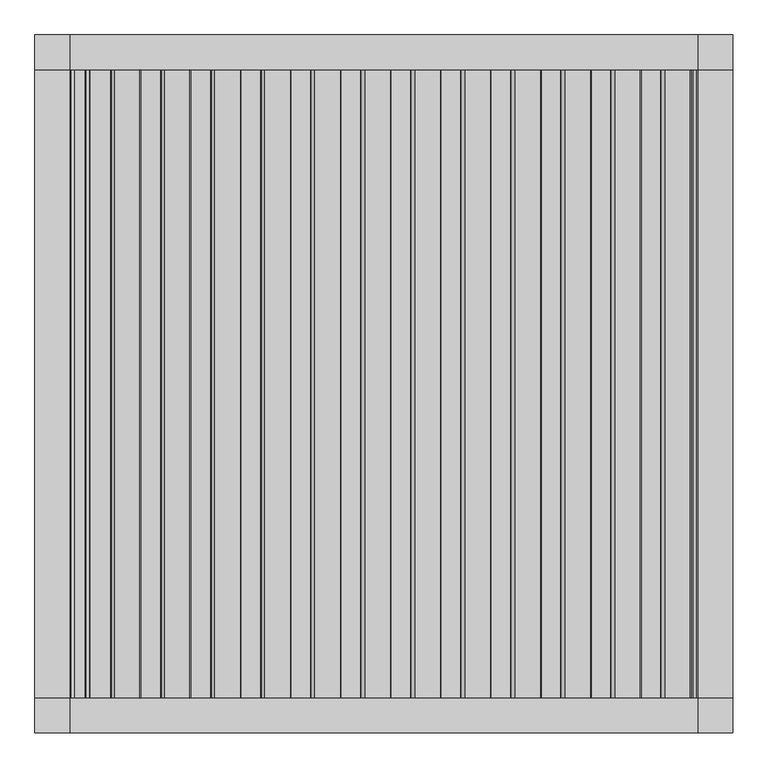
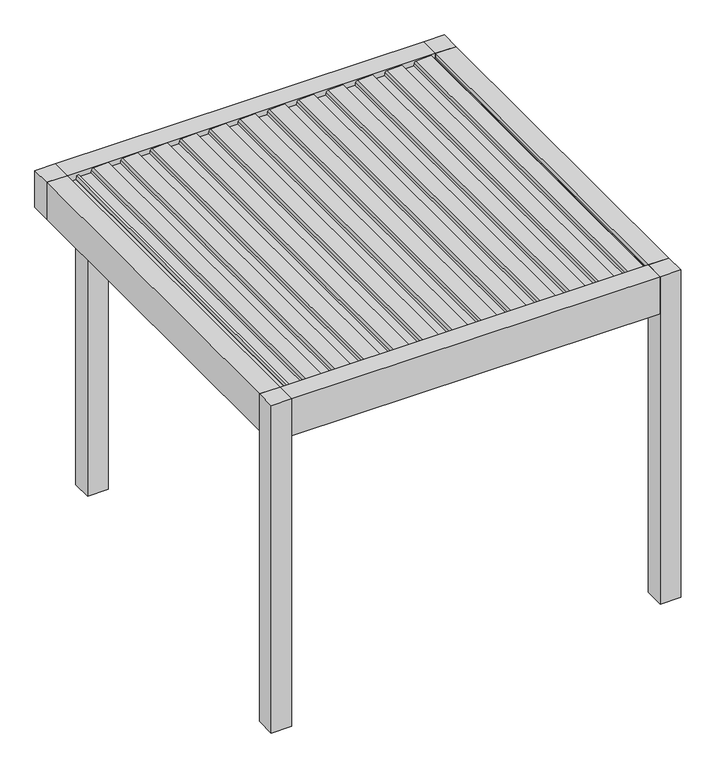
"""IFC4 building model written with IfcOpenShell, lengths in millimetres: proxy geometry, Renson_Amani_Patio_Cover : Renson_Amani_Patio_Cover."""

from ifc_helpers import new_model, si_unit, point, frame, frame_2d, origin, origin_with_axes, place, context, project, spatial, polyline, circle_curve, trimmed, segment, composite_curve, outline, extrude, source, transform, mapped, element, save


def generic_models_81e04796(model_context):
    return source(origin(), model_context, "Body", "SweptSolid", [
        extrude(outline(composite_curve([segment(polyline([(2483.35, 1073.7289238), (2511.01198, 1076.1490335), (2512.3970364, 1104.984284), (2531.8911096, 1101.5469529), (2526.6075693, 991.549838)]), True, "CONTINUOUS"), segment(trimmed(circle_curve(frame_2d((2511.6248435, 992.26951)), 15.0), [point((2526.6075693, 991.549838))], [point((2514.2295662, 977.4973937))], False, "CARTESIAN"), True, "CONTINUOUS"), segment(polyline([(2514.2295662, 977.4973937), (2495.0, 974.1067023), (2495.0, 886.3709263), (2512.0788237, 883.3594689), (2511.3450182, 868.0824984), (2483.35, 865.6332517), (2483.35, 1073.7289238)]), True, "CONTINUOUS")], self_intersect=False)), frame((0.0, -1350.0, 0.0), z_axis=(0.0, 1.0, 0.0), x_axis=(0.0, 0.0, 1.0)), (0.0, 0.0, 1.0), 2700.0),
        extrude(outline(composite_curve([segment(polyline([(2483.35, 858.7132078), (2511.01198, 861.1333174), (2512.3970364, 889.9685679), (2531.8911096, 886.5312368), (2526.6075693, 776.534122)]), True, "CONTINUOUS"), segment(trimmed(circle_curve(frame_2d((2511.6248435, 777.2537939)), 15.0), [point((2526.6075693, 776.534122))], [point((2514.2295662, 762.4816776))], False, "CARTESIAN"), True, "CONTINUOUS"), segment(polyline([(2514.2295662, 762.4816776), (2495.0, 759.0909863), (2495.0, 671.3552102), (2512.0788237, 668.3437528), (2511.3450182, 653.0667824), (2483.35, 650.6175356), (2483.35, 858.7132078)]), True, "CONTINUOUS")], self_intersect=False)), frame((0.0, -1350.0, 0.0), z_axis=(0.0, 1.0, 0.0), x_axis=(0.0, 0.0, 1.0)), (0.0, 0.0, 1.0), 2700.0),
        extrude(outline(composite_curve([segment(polyline([(2483.35, 643.6974917), (2511.01198, 646.1176014), (2512.3970364, 674.9528519), (2531.8911096, 671.5155208), (2526.6075693, 561.5184059)]), True, "CONTINUOUS"), segment(trimmed(circle_curve(frame_2d((2511.6248435, 562.2380779)), 15.0), [point((2526.6075693, 561.5184059))], [point((2514.2295662, 547.4659616))], False, "CARTESIAN"), True, "CONTINUOUS"), segment(polyline([(2514.2295662, 547.4659616), (2495.0, 544.0752702), (2495.0, 456.3394942), (2512.0788237, 453.3280368), (2511.3450182, 438.0510663), (2483.35, 435.6018196), (2483.35, 643.6974917)]), True, "CONTINUOUS")], self_intersect=False)), frame((0.0, -1350.0, 0.0), z_axis=(0.0, 1.0, 0.0), x_axis=(0.0, 0.0, 1.0)), (0.0, 0.0, 1.0), 2700.0),
        extrude(outline(composite_curve([segment(polyline([(2483.35, 428.6817757), (2511.01198, 431.1018854), (2512.3970364, 459.9371358), (2531.8911096, 456.4998047), (2526.6075693, 346.5026899)]), True, "CONTINUOUS"), segment(trimmed(circle_curve(frame_2d((2511.6248435, 347.2223618)), 15.0), [point((2526.6075693, 346.5026899))], [point((2514.2295662, 332.4502455))], False, "CARTESIAN"), True, "CONTINUOUS"), segment(polyline([(2514.2295662, 332.4502455), (2495.0, 329.0595542), (2495.0, 241.3237782), (2512.0788237, 238.3123207), (2511.3450182, 223.0353503), (2483.35, 220.5861035), (2483.35, 428.6817757)]), True, "CONTINUOUS")], self_intersect=False)), frame((0.0, -1350.0, 0.0), z_axis=(0.0, 1.0, 0.0), x_axis=(0.0, 0.0, 1.0)), (0.0, 0.0, 1.0), 2700.0),
        extrude(outline(composite_curve([segment(polyline([(2483.35, 213.6660597), (2511.01198, 216.0861693), (2512.3970364, 244.9214198), (2531.8911096, 241.4840887), (2526.6075693, 131.4869738)]), True, "CONTINUOUS"), segment(trimmed(circle_curve(frame_2d((2511.6248435, 132.2066458)), 15.0), [point((2526.6075693, 131.4869738))], [point((2514.2295662, 117.4345295))], False, "CARTESIAN"), True, "CONTINUOUS"), segment(polyline([(2514.2295662, 117.4345295), (2495.0, 114.0438381), (2495.0, 26.3080621), (2512.0788237, 23.2966047), (2511.3450182, 8.0196342), (2483.35, 5.5703875), (2483.35, 213.6660597)]), True, "CONTINUOUS")], self_intersect=False)), frame((0.0, -1350.0, 0.0), z_axis=(0.0, 1.0, 0.0), x_axis=(0.0, 0.0, 1.0)), (0.0, 0.0, 1.0), 2700.0),
        extrude(outline(composite_curve([segment(polyline([(2483.35, -1.3496564), (2511.01198, 1.0704533), (2512.3970364, 29.9057037), (2531.8911096, 26.4683726), (2526.6075693, -83.5287422)]), True, "CONTINUOUS"), segment(trimmed(circle_curve(frame_2d((2511.6248435, -82.8090703)), 15.0), [point((2526.6075693, -83.5287422))], [point((2514.2295662, -97.5811866))], False, "CARTESIAN"), True, "CONTINUOUS"), segment(polyline([(2514.2295662, -97.5811866), (2495.0, -100.9718779), (2495.0, -188.7076539), (2512.0788237, -191.7191114), (2511.3450182, -206.9960818), (2483.35, -209.4453286), (2483.35, -1.3496564)]), True, "CONTINUOUS")], self_intersect=False)), frame((0.0, -1350.0, 0.0), z_axis=(0.0, 1.0, 0.0), x_axis=(0.0, 0.0, 1.0)), (0.0, 0.0, 1.0), 2700.0),
        extrude(outline(composite_curve([segment(polyline([(2483.35, -216.3653724), (2511.01198, -213.9452628), (2512.3970364, -185.1100123), (2531.8911096, -188.5473434), (2526.6075693, -298.5444582)]), True, "CONTINUOUS"), segment(trimmed(circle_curve(frame_2d((2511.6248435, -297.8247863)), 15.0), [point((2526.6075693, -298.5444582))], [point((2514.2295662, -312.5969026))], False, "CARTESIAN"), True, "CONTINUOUS"), segment(polyline([(2514.2295662, -312.5969026), (2495.0, -315.987594), (2495.0, -403.72337), (2512.0788237, -406.7348274), (2511.3450182, -422.0117979), (2483.35, -424.4610446), (2483.35, -216.3653724)]), True, "CONTINUOUS")], self_intersect=False)), frame((0.0, -1350.0, 0.0), z_axis=(0.0, 1.0, 0.0), x_axis=(0.0, 0.0, 1.0)), (0.0, 0.0, 1.0), 2700.0),
        extrude(outline(composite_curve([segment(polyline([(2483.35, -431.3810885), (2511.01198, -428.9609788), (2512.3970364, -400.1257284), (2531.8911096, -403.5630594), (2526.6075693, -513.5601743)]), True, "CONTINUOUS"), segment(trimmed(circle_curve(frame_2d((2511.6248435, -512.8405024)), 15.0), [point((2526.6075693, -513.5601743))], [point((2514.2295662, -527.6126187))], False, "CARTESIAN"), True, "CONTINUOUS"), segment(polyline([(2514.2295662, -527.6126187), (2495.0, -531.00331), (2495.0, -618.739086), (2512.0788237, -621.7505434), (2511.3450182, -637.0275139), (2483.35, -639.4767606), (2483.35, -431.3810885)]), True, "CONTINUOUS")], self_intersect=False)), frame((0.0, -1350.0, 0.0), z_axis=(0.0, 1.0, 0.0), x_axis=(0.0, 0.0, 1.0)), (0.0, 0.0, 1.0), 2700.0),
        extrude(outline(composite_curve([segment(polyline([(2483.35, -646.3968045), (2511.01198, -643.9766949), (2512.3970364, -615.1414444), (2531.8911096, -618.5787755), (2526.6075693, -728.5758903)]), True, "CONTINUOUS"), segment(trimmed(circle_curve(frame_2d((2511.6248435, -727.8562184)), 15.0), [point((2526.6075693, -728.5758903))], [point((2514.2295662, -742.6283347))], False, "CARTESIAN"), True, "CONTINUOUS"), segment(polyline([(2514.2295662, -742.6283347), (2495.0, -746.019026), (2495.0, -833.7548021), (2512.0788237, -836.7662595), (2511.3450182, -852.04323), (2483.35, -854.4924767), (2483.35, -646.3968045)]), True, "CONTINUOUS")], self_intersect=False)), frame((0.0, -1350.0, 0.0), z_axis=(0.0, 1.0, 0.0), x_axis=(0.0, 0.0, 1.0)), (0.0, 0.0, 1.0), 2700.0),
        extrude(outline(composite_curve([segment(polyline([(2483.35, -861.4125206), (2511.01198, -858.9924109), (2512.3970364, -830.1571605), (2531.8911096, -833.5944915), (2526.6075693, -943.5916064)]), True, "CONTINUOUS"), segment(trimmed(circle_curve(frame_2d((2511.6248435, -942.8719345)), 15.0), [point((2526.6075693, -943.5916064))], [point((2514.2295662, -957.6440508))], False, "CARTESIAN"), True, "CONTINUOUS"), segment(polyline([(2514.2295662, -957.6440508), (2495.0, -961.0347421), (2495.0, -1048.7705181), (2512.0788237, -1051.7819755), (2511.3450182, -1067.058946), (2483.35, -1069.5081927), (2483.35, -861.4125206)]), True, "CONTINUOUS")], self_intersect=False)), frame((0.0, -1350.0, 0.0), z_axis=(0.0, 1.0, 0.0), x_axis=(0.0, 0.0, 1.0)), (0.0, 0.0, 1.0), 2700.0),
        extrude(outline(composite_curve([segment(polyline([(2483.35, 1288.7446399), (2511.01198, 1291.1647495), (2512.3970364, 1320.0), (2531.8911096, 1316.5626689), (2526.6075693, 1206.5655541)]), True, "CONTINUOUS"), segment(trimmed(circle_curve(frame_2d((2511.6248435, 1207.285226)), 15.0), [point((2526.6075693, 1206.5655541))], [point((2514.2295662, 1192.5131097))], False, "CARTESIAN"), True, "CONTINUOUS"), segment(polyline([(2514.2295662, 1192.5131097), (2495.0, 1189.1224184), (2495.0, 1101.3866423), (2512.0788237, 1098.3751849), (2511.3450182, 1083.0982144), (2483.35, 1080.6489677), (2483.35, 1288.7446399)]), True, "CONTINUOUS")], self_intersect=False)), frame((0.0, -1350.0, 0.0), z_axis=(0.0, 1.0, 0.0), x_axis=(0.0, 0.0, 1.0)), (0.0, 0.0, 1.0), 2700.0),
        extrude(outline(composite_curve([segment(polyline([(2483.35, -1076.4282366), (2511.01198, -1074.008127), (2512.3970364, -1045.1728765), (2531.8911096, -1048.6102076), (2526.6075693, -1158.6073224)]), True, "CONTINUOUS"), segment(trimmed(circle_curve(frame_2d((2511.6248435, -1157.8876505)), 15.0), [point((2526.6075693, -1158.6073224))], [point((2514.2295662, -1172.6597668))], False, "CARTESIAN"), True, "CONTINUOUS"), segment(polyline([(2514.2295662, -1172.6597668), (2495.0, -1176.0504581), (2495.0, -1263.7862342), (2512.0788237, -1266.7976916), (2511.3450182, -1282.0746621), (2483.35, -1284.5239088), (2483.35, -1076.4282366)]), True, "CONTINUOUS")], self_intersect=False)), frame((0.0, -1350.0, 0.0), z_axis=(0.0, 1.0, 0.0), x_axis=(0.0, 0.0, 1.0)), (0.0, 0.0, 1.0), 2700.0),
        extrude(outline(polyline([(-1350.0, 1500.0), (-1350.0, 1350.0), (-1500.0, 1350.0), (-1500.0, 1500.0), (-1350.0, 1500.0)])), frame((0.0, 0.0, 2250.0), z_axis=(0.0, 0.0, 1.0), x_axis=(1.0, 0.0, 0.0)), (0.0, 0.0, 1.0), 285.0),
        extrude(outline(polyline([(1500.0, -1350.0), (1500.0, -1500.0), (1350.0, -1500.0), (1350.0, -1350.0), (1500.0, -1350.0)])), origin_with_axes(), (0.0, 0.0, 1.0), 2535.0),
        extrude(outline(polyline([(1500.0, 1500.0), (1500.0, 1350.0), (1350.0, 1350.0), (1350.0, 1500.0), (1500.0, 1500.0)])), origin_with_axes(), (0.0, 0.0, 1.0), 2535.0),
        extrude(outline(polyline([(-1050.0, 1500.0), (-1050.0, 1350.0), (-1200.0, 1350.0), (-1200.0, 1500.0), (-1050.0, 1500.0)])), origin_with_axes(), (0.0, 0.0, 1.0), 2250.0),
        extrude(outline(polyline([(-1350.0, -1350.0), (-1350.0, -1500.0), (-1500.0, -1500.0), (-1500.0, -1350.0), (-1350.0, -1350.0)])), origin_with_axes(), (0.0, 0.0, 1.0), 2535.0),
        extrude(outline(polyline([(2466.6559373, -1350.0), (2466.6559373, -1290.0), (2480.6555802, -1286.2487113), (2480.6555802, -1329.5940945), (2496.400763, -1345.0), (2504.2449277, -1345.0), (2504.6823598, -1350.0), (2466.6559373, -1350.0)])), frame((0.0, -1350.0, 0.0), z_axis=(0.0, 1.0, 0.0), x_axis=(0.0, 0.0, 1.0)), (0.0, 0.0, 1.0), 2700.0),
        extrude(outline(polyline([(-1350.0, -1350.0), (-1500.0, -1350.0), (-1500.0, 1350.0), (-1350.0, 1350.0), (-1350.0, -1350.0)])), frame((0.0, 0.0, 2250.0), z_axis=(0.0, 0.0, 1.0), x_axis=(1.0, 0.0, 0.0)), (0.0, 0.0, 1.0), 285.0),
        extrude(outline(polyline([(2535.0, 1500.0), (2535.0, 1350.0), (2504.6904658, 1350.0), (2504.2449277, 1345.0), (2496.400763, 1345.0), (2480.6555802, 1329.2544156), (2480.6555802, 1319.9090324), (2466.6559373, 1323.6603211), (2466.6559373, 1350.0), (2250.0, 1350.0), (2250.0, 1500.0), (2535.0, 1500.0)])), frame((0.0, -1350.0, 0.0), z_axis=(0.0, 1.0, 0.0), x_axis=(0.0, 0.0, 1.0)), (0.0, 0.0, 1.0), 2700.0),
        extrude(outline(polyline([(-1350.0, 2535.0), (-1350.0, 2322.0), (-1280.0000001, 2322.0), (-1280.0000001, 2250.0), (-1500.0, 2250.0), (-1500.0, 2535.0), (-1350.0, 2535.0)])), frame((-1350.0, 0.0, 0.0), z_axis=(1.0, 0.0, 0.0), x_axis=(0.0, 1.0, 0.0)), (0.0, 0.0, 1.0), 2700.0),
        extrude(outline(polyline([(1500.0, 2250.0), (1280.0000001, 2250.0), (1280.0000001, 2322.0), (1350.0, 2322.0), (1350.0, 2535.0), (1500.0, 2535.0), (1500.0, 2250.0)])), frame((-1350.0, 0.0, 0.0), z_axis=(1.0, 0.0, 0.0), x_axis=(0.0, 1.0, 0.0)), (0.0, 0.0, 1.0), 2700.0),
    ])


if __name__ == "__main__":
    model = new_model("IFC4")
    model_context = context("Model", 3, world=origin())
    ifc_project = project(units=[si_unit("LENGTHUNIT", "METRE", prefix="MILLI")], contexts=[model_context])
    site = spatial("IfcSite", under=ifc_project)
    building = spatial("IfcBuilding", under=site)
    placement = place(None, origin())
    generic_models_shape = generic_models_81e04796(model_context)
    element("IfcBuildingElementProxy", 1, Name="Renson_Amani_Patio_Cover : Renson_Amani_Patio_Cover", ObjectType="Renson_Amani_Patio_Cover : Renson_Amani_Patio_Cover", at=placement, inside=building, context=model_context, shape_type="MappedRepresentation", body=[
        mapped(generic_models_shape, transform((0.0, 0.0, 0.0), x_axis=(1.0, 0.0, 0.0), y_axis=(0.0, 1.0, 0.0), z_axis=(0.0, 0.0, 1.0))),
    ])
    save(model, "model.ifc")
